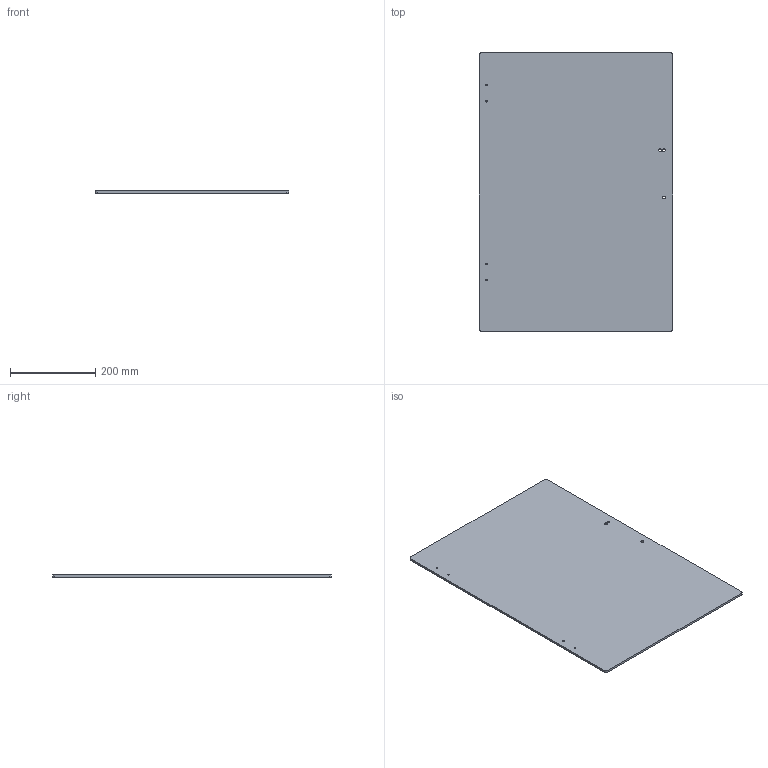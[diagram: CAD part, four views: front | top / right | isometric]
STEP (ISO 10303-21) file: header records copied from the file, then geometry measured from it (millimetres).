
FILE_DESCRIPTION(/* description */ (''),/* implementation_level */ '2;1');
FILE_NAME(/* name */ 'Front Panel P_L.step',/* time_stamp */ '2026-05-15T12:46:19-07:00',/* author */ (''),/* organization */ (''),/* preprocessor_version */ 'ST-DEVELOPER v20.1',/* originating_system */ 'Autodesk Translation Framework v15.8.0.0',/* authorisation */ '');
FILE_SCHEMA (('AUTOMOTIVE_DESIGN { 1 0 10303 214 3 1 1 }'));
Length unit declared in the file: millimetre
Products named in the file (1): Front Panel P_L
Bounding box: 454.66 x 654.3 x 5 mm (x, y, z)
Volume: 1486685.6 mm3; surface area: 606222.5 mm2
Topology: 1 solids, 1 shells, 17 faces, 45 edges, 30 vertices
Faces by surface type: cylinder 11, plane 6
Full cylindrical faces by diameter (mm): 3.332 x4, 6.2 x3
Entity records: 602 total; most frequent: DIRECTION 103, CARTESIAN_POINT 93, ORIENTED_EDGE 90, EDGE_CURVE 45, AXIS2_PLACEMENT_3D 40, EDGE_LOOP 31, VERTEX_POINT 30, LINE 23
